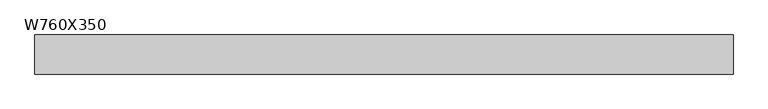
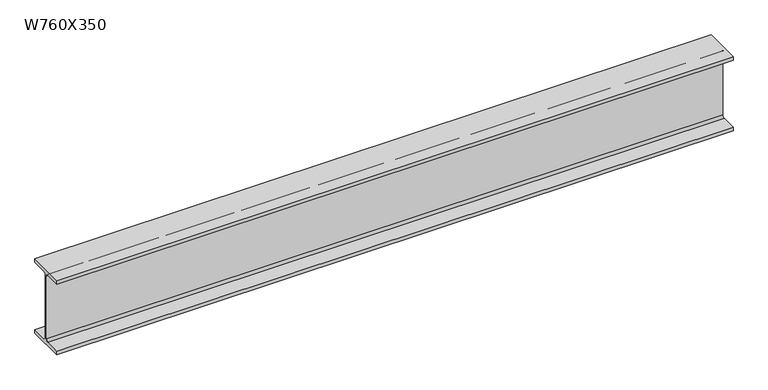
"""IFC4 building model written with IfcOpenShell, lengths in millimetres: beam geometry, M_W-Wide Flange : W760X350."""

from ifc_helpers import new_model, si_unit, point, frame, frame_2d, origin, place, context, project, spatial, polyline, circle_curve, trimmed, segment, composite_curve, outline, extrude, source, transform, mapped, element, save


def w760x350_c93c339d(model_context):
    return source(origin(), model_context, "Body", "SweptSolid", [
        extrude(outline(composite_curve([segment(polyline([(192.0, -359.4), (192.0, -397.5), (-192.0, -397.5), (-192.0, -359.4), (-32.75, -359.4)]), True, "CONTINUOUS"), segment(trimmed(circle_curve(frame_2d((-32.75, -337.2)), 22.2), [point((-32.75, -359.4))], [point((-10.55, -337.2))], True, "CARTESIAN"), True, "CONTINUOUS"), segment(polyline([(-10.55, -337.2), (-10.55, 337.2)]), True, "CONTINUOUS"), segment(trimmed(circle_curve(frame_2d((-32.75, 337.2)), 22.2), [point((-10.55, 337.2))], [point((-32.75, 359.4))], True, "CARTESIAN"), True, "CONTINUOUS"), segment(polyline([(-32.75, 359.4), (-192.0, 359.4), (-192.0, 397.5), (192.0, 397.5), (192.0, 359.4), (32.75, 359.4)]), True, "CONTINUOUS"), segment(trimmed(circle_curve(frame_2d((32.75, 337.2)), 22.2), [point((32.75, 359.4))], [point((10.55, 337.2))], True, "CARTESIAN"), True, "CONTINUOUS"), segment(polyline([(10.55, 337.2), (10.55, -337.2)]), True, "CONTINUOUS"), segment(trimmed(circle_curve(frame_2d((32.75, -337.2)), 22.2), [point((10.55, -337.2))], [point((32.75, -359.4))], True, "CARTESIAN"), True, "CONTINUOUS"), segment(polyline([(32.75, -359.4), (192.0, -359.4)]), True, "CONTINUOUS")], self_intersect=False)), frame((-3436.6555898, 0.0, 0.0), z_axis=(1.0, 0.0, 0.0), x_axis=(0.0, 1.0, 0.0)), (0.0, 0.0, 1.0), 6854.1065863),
    ])


if __name__ == "__main__":
    model = new_model("IFC4")
    model_context = context("Model", 3, world=origin())
    ifc_project = project(units=[si_unit("LENGTHUNIT", "METRE", prefix="MILLI")], contexts=[model_context])
    site = spatial("IfcSite", under=ifc_project)
    building = spatial("IfcBuilding", under=site)
    placement = place(None, origin())
    w760x350_shape = w760x350_c93c339d(model_context)
    element("IfcBeam", 1, ObjectType="M_W-Wide Flange : W760X350", at=placement, inside=building, context=model_context, shape_type="MappedRepresentation", body=[
        mapped(w760x350_shape, transform((0.0, 0.0, 0.0), x_axis=(1.0, 0.0, 0.0), y_axis=(0.0, 1.0, 0.0), z_axis=(0.0, 0.0, 1.0))),
    ])
    save(model, "model.ifc")
